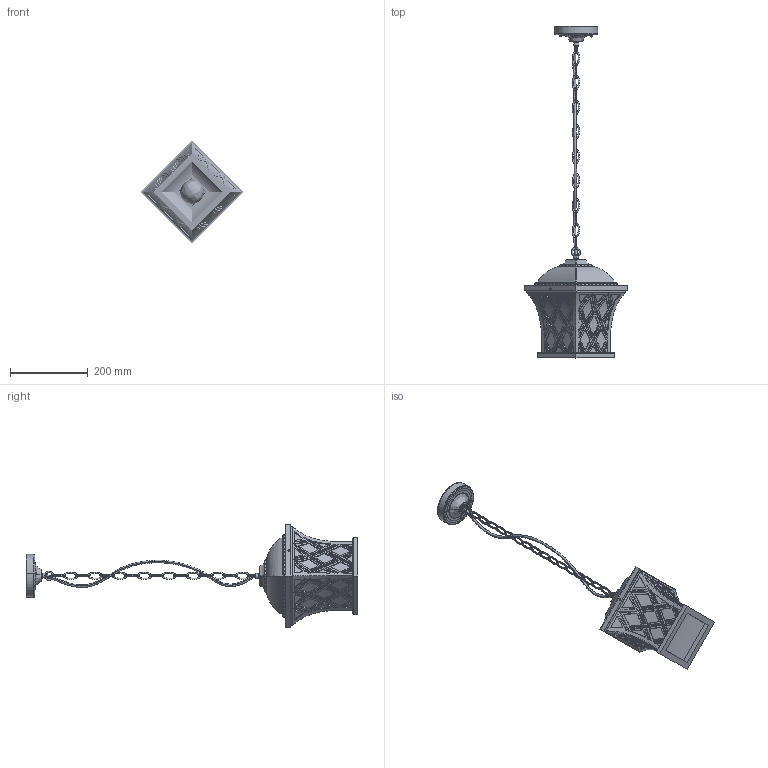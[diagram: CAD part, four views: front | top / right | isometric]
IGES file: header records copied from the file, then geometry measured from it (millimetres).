
Start section: SolidWorks IGES file using analytic representation for surfaces
Global section: file name: Z:\Modele 3D_WWW\_KOLEKCJE_WWW\TAY\TAY-I-5293\TAY-I-5293.IGS; native system: SolidWorks 2021; preprocessor: SolidWorks 2021; author: gabriela.tworek; date: 210712.115407; units: millimetre
Bounding box: 261.63 x 851.22 x 261.63 mm (x, y, z)
Surface area: 614232.1 mm2 (no closed solid volume)
Topology: 0 solids, 0 shells, 1452 faces, 36521 edges, 36351 vertices
Faces by surface type: bspline 1321, revolution 131
